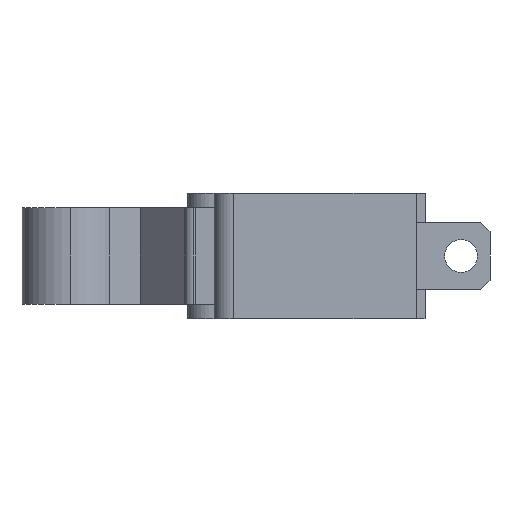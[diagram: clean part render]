
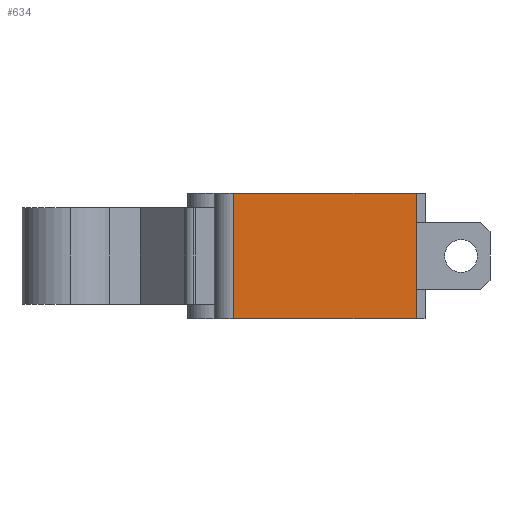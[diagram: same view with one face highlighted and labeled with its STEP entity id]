
A CAD part, left-side view. The second image highlights one B-rep face of the part: STEP entity #634.
In plain terms, the highlighted planar face has unit normal (-1, 0, 0).
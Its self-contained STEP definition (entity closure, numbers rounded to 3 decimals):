
#6 = EDGE_CURVE ( 'NONE', #611, #929, #1645, .T. ) ;
#9 = LINE ( 'NONE', #292, #2275 ) ;
#19 = DIRECTION ( 'NONE',  ( -1., 0., 0. ) ) ;
#48 = LINE ( 'NONE', #2700, #152 ) ;
#62 = DIRECTION ( 'NONE',  ( 0., 0., -1. ) ) ;
#152 = VECTOR ( 'NONE', #2494, 1000. ) ;
#159 = FACE_OUTER_BOUND ( 'NONE', #2472, .T. ) ;
#206 = ORIENTED_EDGE ( 'NONE', *, *, #1661, .F. ) ;
#292 = CARTESIAN_POINT ( 'NONE',  ( 0., 0., 0. ) ) ;
#469 = CARTESIAN_POINT ( 'NONE',  ( 0., 9.5, 0. ) ) ;
#561 = ORIENTED_EDGE ( 'NONE', *, *, #6, .T. ) ;
#611 = VERTEX_POINT ( 'NONE', #2242 ) ;
#634 = ADVANCED_FACE ( 'NONE', ( #159 ), #2006, .T. ) ;
#655 = EDGE_CURVE ( 'NONE', #611, #1236, #2363, .T. ) ;
#772 = CARTESIAN_POINT ( 'NONE',  ( 0., 9.5, 6.5 ) ) ;
#929 = VERTEX_POINT ( 'NONE', #772 ) ;
#1098 = CARTESIAN_POINT ( 'NONE',  ( 0., 0., 6.5 ) ) ;
#1188 = CARTESIAN_POINT ( 'NONE',  ( 0., 0., 6.5 ) ) ;
#1236 = VERTEX_POINT ( 'NONE', #2388 ) ;
#1265 = ORIENTED_EDGE ( 'NONE', *, *, #655, .F. ) ;
#1297 = VECTOR ( 'NONE', #1341, 1000. ) ;
#1300 = VERTEX_POINT ( 'NONE', #469 ) ;
#1328 = CARTESIAN_POINT ( 'NONE',  ( 0., 0., 6.5 ) ) ;
#1341 = DIRECTION ( 'NONE',  ( 0., 1., 0. ) ) ;
#1645 = LINE ( 'NONE', #1098, #1297 ) ;
#1661 = EDGE_CURVE ( 'NONE', #1236, #1300, #9, .T. ) ;
#1836 = DIRECTION ( 'NONE',  ( 0., 1., 0. ) ) ;
#1843 = VECTOR ( 'NONE', #62, 1000. ) ;
#2006 = PLANE ( 'NONE',  #2624 ) ;
#2242 = CARTESIAN_POINT ( 'NONE',  ( 0., 0., 6.5 ) ) ;
#2251 = EDGE_CURVE ( 'NONE', #929, #1300, #48, .T. ) ;
#2275 = VECTOR ( 'NONE', #1836, 1000. ) ;
#2363 = LINE ( 'NONE', #1188, #1843 ) ;
#2388 = CARTESIAN_POINT ( 'NONE',  ( 0., 0., 0. ) ) ;
#2435 = DIRECTION ( 'NONE',  ( 0., 0., 1. ) ) ;
#2472 = EDGE_LOOP ( 'NONE', ( #206, #1265, #561, #2828 ) ) ;
#2494 = DIRECTION ( 'NONE',  ( 0., 0., -1. ) ) ;
#2624 = AXIS2_PLACEMENT_3D ( 'NONE', #1328, #19, #2435 ) ;
#2700 = CARTESIAN_POINT ( 'NONE',  ( 0., 9.5, 6.5 ) ) ;
#2828 = ORIENTED_EDGE ( 'NONE', *, *, #2251, .T. ) ;
